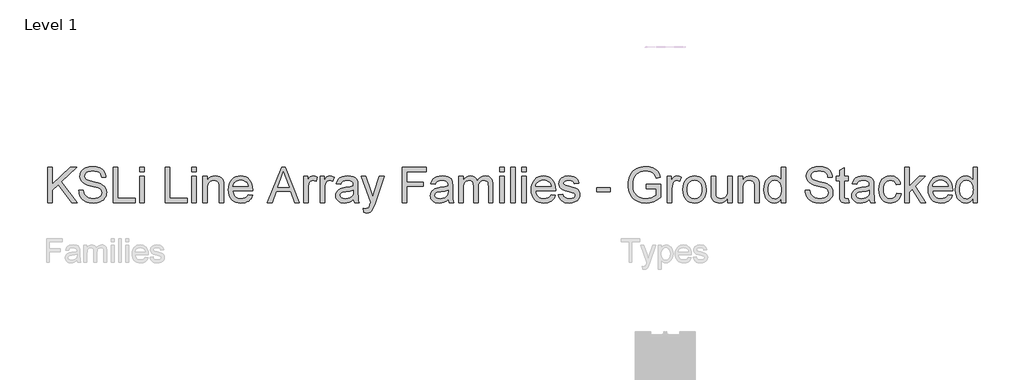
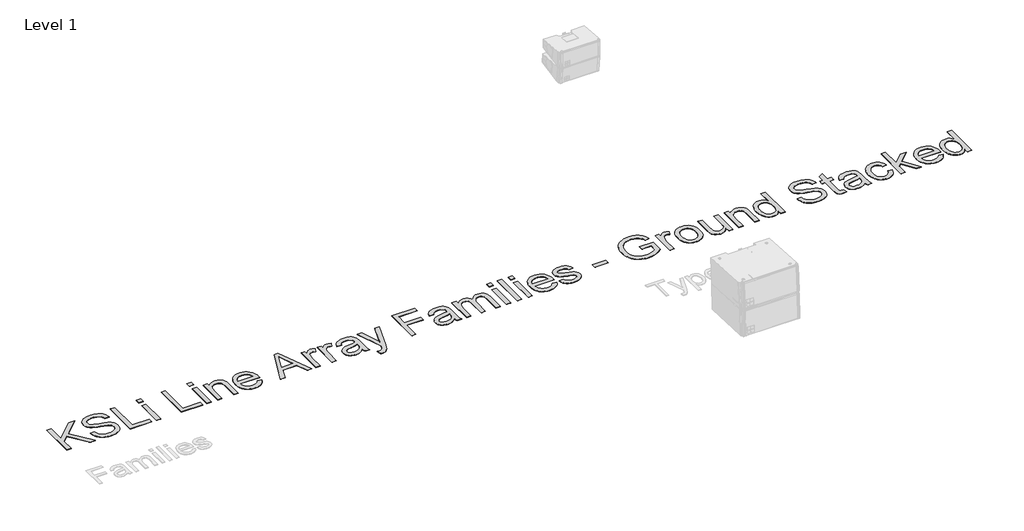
# One storey, part 41 of 52: 1 proxy.
"""IFC4 building model written with IfcOpenShell, lengths in millimetres."""

from ifc_helpers import new_model, si_unit, origin, origin_with_axes, place, context, project, spatial, polyline, outline, extrude, element, save

model = new_model("IFC4")

# Units and contexts
model_context = context("Model", 3, world=origin())
ifc_project = project(units=[si_unit("LENGTHUNIT", "METRE", prefix="MILLI")], contexts=[model_context])

# Site, building, storey
site = spatial("IfcSite", under=ifc_project)
building = spatial("IfcBuilding", under=site)
storey = spatial("IfcBuildingStorey", under=building, Name="Level 1", Elevation=0.0)

# Proxy
placement = place(None, origin())
element("IfcBuildingElementProxy", 1, Name="600mm Arial", ObjectType="600mm Arial", at=placement, inside=storey, context=model_context, shape_type="SweptSolid", body=[
    extrude(outline(polyline([(5965.0460087, -31067.5695164), (5965.0460087, -30476.8002857), (6038.8921626, -30476.8002857), (6038.8921626, -30765.982978), (6341.776778, -30476.8002857), (6445.0460087, -30476.8002857), (6190.7671626, -30719.684901), (6454.276778, -31067.5695164), (6363.9883164, -31067.5695164), (6138.4113933, -30769.5887472), (6038.8921626, -30864.4925934), (6038.8921626, -31067.5695164), (5965.0460087, -31067.5695164)])), origin_with_axes(), (0.0, 0.0, 1.0), 5.0),
    extrude(outline(polyline([(6481.9690857, -30864.4925934), (6555.8152395, -30864.4925934), (6564.2887972, -30905.4721607), (6579.6133164, -30938.4108626), (6603.5195664, -30964.5526895), (6637.7383164, -30985.1416318), (6679.5652395, -30998.5010068), (6726.2960087, -31002.9541318), (6767.4378357, -30999.5827376), (6803.4594703, -30989.4685549), (6832.6481722, -30973.4589395), (6853.291201, -30952.4012472), (6865.5688453, -30928.2245645), (6869.6613933, -30902.857978), (6866.5964895, -30878.1404299), (6857.401778, -30856.7762472), (6838.7238933, -30838.5490837), (6807.2094703, -30823.2425934), (6699.6854318, -30795.045478), (6629.1024991, -30776.3856222), (6583.9402395, -30758.6272087), (6547.1794222, -30733.7834587), (6521.1277395, -30703.6752857), (6505.604903, -30668.951728), (6500.4306241, -30630.2618241), (6502.0306842, -30608.271139), (6506.8308645, -30587.0106222), (6514.831165, -30566.4802736), (6526.0315857, -30546.6800934), (6540.3059246, -30528.4168722), (6557.5279799, -30512.497401), (6577.6977515, -30498.9216799), (6600.8152395, -30487.6897087), (6652.7743741, -30472.5995645), (6710.2863933, -30467.5695164), (6772.5940857, -30472.8339395), (6827.1133164, -30488.6272087), (6850.9654799, -30500.3910309), (6871.8969703, -30514.6248049), (6889.9077876, -30531.3285309), (6904.9979318, -30550.5022087), (6917.0502155, -30571.5869443), (6925.947451, -30594.0238434), (6931.6896385, -30617.8129059), (6934.276778, -30642.9541318), (6860.4306241, -30642.9541318), (6855.4907203, -30619.3904299), (6846.8729318, -30598.8916318), (6834.5772587, -30581.4577376), (6818.603701, -30567.0887472), (6798.6547828, -30555.856776), (6774.433028, -30547.8339395), (6745.9384366, -30543.0202376), (6713.1710087, -30541.4156703), (6679.3579078, -30543.0022087), (6650.4666818, -30547.7618241), (6626.4973308, -30555.6945164), (6607.4498549, -30566.8002857), (6592.9366337, -30580.1506462), (6582.5700472, -30594.8171126), (6576.3500953, -30610.7996847), (6574.276778, -30628.0983626), (6580.1541818, -30656.4757664), (6597.7863933, -30679.3002857), (6613.9762972, -30689.450526), (6639.4690857, -30699.7089395), (6718.3633164, -30720.5502857), (6799.7815857, -30740.3459587), (6849.0363933, -30757.6175934), (6891.1337491, -30784.4084587), (6907.40929, -30800.1566559), (6920.5027395, -30817.4733626), (6930.5673429, -30836.2684347), (6937.7563453, -30856.451728), (6943.5075472, -30900.982978), (6941.8534006, -30924.0824371), (6936.8909607, -30946.5058145), (6928.6202275, -30968.2531102), (6917.041201, -30989.3243241), (6902.3567058, -31008.903651), (6884.7695664, -31026.1752857), (6864.2797828, -31041.139228), (6840.8873549, -31053.795478), (6815.2728717, -31063.8600813), (6788.1169222, -31071.0490837), (6729.1806241, -31076.8002857), (6691.4056842, -31075.2498049), (6656.8308645, -31070.5983626), (6625.456165, -31062.8459587), (6597.2815857, -31051.9925934), (6572.1358525, -31038.0202376), (6549.8476914, -31020.9108626), (6530.4171025, -31000.6644684), (6513.8440857, -30977.2810549), (6500.4937251, -30951.5178337), (6490.7311049, -30924.1320164), (6484.5562251, -30895.123603), (6481.9690857, -30864.4925934)])), origin_with_axes(), (0.0, 0.0, 1.0), 5.0),
    extrude(outline(polyline([(7054.276778, -31067.5695164), (7054.276778, -30476.8002857), (7128.1229318, -30476.8002857), (7128.1229318, -30993.7233626), (7423.5075472, -30993.7233626), (7423.5075472, -31067.5695164), (7054.276778, -31067.5695164)])), origin_with_axes(), (0.0, 0.0, 1.0), 5.0),
    extrude(outline(polyline([(7497.353701, -31067.5695164), (7497.353701, -30633.7233626), (7571.1998549, -30633.7233626), (7571.1998549, -31067.5695164), (7497.353701, -31067.5695164)])), origin_with_axes(), (0.0, 0.0, 1.0), 5.0),
    extrude(outline(polyline([(7497.353701, -30550.6464395), (7497.353701, -30476.8002857), (7571.1998549, -30476.8002857), (7571.1998549, -30550.6464395), (7497.353701, -30550.6464395)])), origin_with_axes(), (0.0, 0.0, 1.0), 5.0),
    extrude(outline(polyline([(7921.9690857, -31067.5695164), (7921.9690857, -30476.8002857), (7995.8152395, -30476.8002857), (7995.8152395, -30993.7233626), (8291.1998549, -30993.7233626), (8291.1998549, -31067.5695164), (7921.9690857, -31067.5695164)])), origin_with_axes(), (0.0, 0.0, 1.0), 5.0),
    extrude(outline(polyline([(8365.0460087, -31067.5695164), (8365.0460087, -30633.7233626), (8438.8921626, -30633.7233626), (8438.8921626, -31067.5695164), (8365.0460087, -31067.5695164)])), origin_with_axes(), (0.0, 0.0, 1.0), 5.0),
    extrude(outline(polyline([(8365.0460087, -30550.6464395), (8365.0460087, -30476.8002857), (8438.8921626, -30476.8002857), (8438.8921626, -30550.6464395), (8365.0460087, -30550.6464395)])), origin_with_axes(), (0.0, 0.0, 1.0), 5.0),
    extrude(outline(polyline([(8549.6613933, -31067.5695164), (8549.6613933, -30633.7233626), (8623.5075472, -30633.7233626), (8623.5075472, -30694.3002857), (8649.1625953, -30663.7594203), (8679.9738933, -30641.9445164), (8715.9414414, -30628.8555741), (8757.0652395, -30624.4925934), (8793.4654799, -30628.0082184), (8826.8008164, -30638.5550934), (8854.6012972, -30654.8171126), (8874.3969703, -30675.4781703), (8887.8284607, -30700.4841799), (8896.5363933, -30729.7810549), (8900.4306241, -30801.1752857), (8900.4306241, -31067.5695164), (8826.5844703, -31067.5695164), (8826.5844703, -30811.1272087), (8824.4570664, -30772.9421126), (8818.0748549, -30745.7906703), (8806.3020183, -30726.3375453), (8788.0027395, -30711.247401), (8764.5472107, -30701.5659107), (8737.3056241, -30698.3387472), (8714.8822467, -30700.1506462), (8694.0544222, -30705.5863434), (8674.8221506, -30714.6458385), (8657.1854318, -30727.3291318), (8642.4513573, -30745.0785309), (8631.9270183, -30769.3363434), (8625.612415, -30800.1025693), (8623.5075472, -30837.3772087), (8623.5075472, -31067.5695164), (8549.6613933, -31067.5695164)])), origin_with_axes(), (0.0, 0.0, 1.0), 5.0),
    extrude(outline(polyline([(9305.7190857, -30938.3387472), (9378.1229318, -30947.5695164), (9367.0216698, -30976.5689155), (9352.0351914, -31002.1248049), (9333.1634967, -31024.2371847), (9310.4065857, -31042.9060549), (9283.9988333, -31057.7347809), (9254.1746145, -31068.326728), (9220.9339294, -31074.6818962), (9184.276778, -31076.8002857), (9138.4564655, -31073.1449371), (9097.6301433, -31062.1788914), (9061.7978116, -31043.9021486), (9030.9594703, -31018.3147087), (9006.1607924, -30986.1287111), (8988.447451, -30948.0562953), (8977.8194462, -30904.0974611), (8974.276778, -30854.2522087), (8977.8555039, -30802.716752), (8988.5916818, -30757.2930741), (9006.4853116, -30717.9811751), (9031.5363933, -30684.7810549), (9062.2936049, -30658.404853), (9097.3056241, -30639.5647087), (9136.572451, -30628.2606222), (9180.0940857, -30624.4925934), (9222.2139775, -30628.2516078), (9260.3044222, -30639.528651), (9294.3654198, -30658.3237232), (9324.3969703, -30684.6368241), (9348.9116938, -30717.7648289), (9366.4222107, -30757.0046126), (9376.9285208, -30802.3561751), (9380.4306241, -30853.8195164), (9379.9979318, -30873.7233626), (9048.1229318, -30873.7233626), (9052.4002756, -30903.1915116), (9060.9053837, -30928.9998049), (9073.6382563, -30951.1482424), (9090.5988933, -30969.6368241), (9110.8497948, -30984.2131462), (9133.4534607, -30994.6248049), (9158.4098909, -31000.8718001), (9185.7190857, -31002.9541318), (9225.0219703, -30999.0959587), (9258.1229318, -30987.5214395), (9285.0219703, -30967.5094203), (9305.7190857, -30938.3387472)]), holes=[polyline([(9048.1229318, -30799.8772087), (9306.5844703, -30799.8772087), (9296.5964895, -30760.8627857), (9288.0057443, -30745.5202376), (9277.0171626, -30732.9541318), (9256.8789414, -30717.809901), (9233.964278, -30706.9925934), (9208.2731722, -30700.5022087), (9179.8056241, -30698.3387472), (9153.8395784, -30700.0650092), (9130.0279799, -30705.2437953), (9108.3708284, -30713.8751054), (9088.8681241, -30725.9589395), (9072.502439, -30740.9364034), (9060.2563453, -30758.248603), (9052.1298429, -30777.8955381), (9048.1229318, -30799.8772087)])]), origin_with_axes(), (0.0, 0.0, 1.0), 5.0),
    extrude(outline(polyline([(9625.478701, -31067.5695164), (9861.2960087, -30476.8002857), (9924.1806241, -30476.8002857), (10159.9979318, -31067.5695164), (10081.9690857, -31067.5695164), (10014.3248549, -30882.9541318), (9771.0075472, -30882.9541318), (9703.5075472, -31067.5695164), (9625.478701, -31067.5695164)]), holes=[polyline([(9798.1229318, -30809.107978), (9987.353701, -30809.107978), (9934.1325472, -30663.8675934), (9892.7383164, -30550.6464395), (9855.9594703, -30651.1752857), (9798.1229318, -30809.107978)])]), origin_with_axes(), (0.0, 0.0, 1.0), 5.0),
    extrude(outline(polyline([(10229.6613933, -31067.5695164), (10229.6613933, -30633.7233626), (10294.276778, -30633.7233626), (10294.276778, -30697.9060549), (10318.1469703, -30660.6945164), (10340.1421626, -30638.7714395), (10362.2094703, -30628.0623049), (10386.2960087, -30624.4925934), (10423.0748549, -30630.1897087), (10460.4306241, -30647.2810549), (10435.7671626, -30713.482978), (10409.8056241, -30702.1248049), (10383.8440857, -30698.3387472), (10361.7948068, -30701.9805741), (10342.089278, -30712.9060549), (10326.1698068, -30730.2858626), (10315.478701, -30753.2906703), (10306.5003357, -30794.5406703), (10303.5075472, -30839.5406703), (10303.5075472, -31067.5695164), (10229.6613933, -31067.5695164)])), origin_with_axes(), (0.0, 0.0, 1.0), 5.0),
    extrude(outline(polyline([(10506.5844703, -31067.5695164), (10506.5844703, -30633.7233626), (10571.1998549, -30633.7233626), (10571.1998549, -30697.9060549), (10595.0700472, -30660.6945164), (10617.0652395, -30638.7714395), (10639.1325472, -30628.0623049), (10663.2190857, -30624.4925934), (10699.9979318, -30630.1897087), (10737.353701, -30647.2810549), (10712.6902395, -30713.482978), (10686.728701, -30702.1248049), (10660.7671626, -30698.3387472), (10638.7178837, -30701.9805741), (10619.0123549, -30712.9060549), (10603.0928837, -30730.2858626), (10592.401778, -30753.2906703), (10583.4234126, -30794.5406703), (10580.4306241, -30839.5406703), (10580.4306241, -31067.5695164), (10506.5844703, -31067.5695164)])), origin_with_axes(), (0.0, 0.0, 1.0), 5.0),
    extrude(outline(polyline([(11060.4306241, -31012.184901), (11025.1481722, -31042.4373049), (10988.8200472, -31062.232978), (10950.6169222, -31073.1584587), (10909.7094703, -31076.8002857), (10876.8293621, -31074.6097809), (10847.9967299, -31068.0382664), (10823.2115736, -31057.0857424), (10802.4738933, -31041.7522087), (10786.0991938, -31023.0112232), (10774.4029799, -31001.8363434), (10767.3852515, -30978.2275693), (10765.0460087, -30952.184901), (10768.5796626, -30921.5719203), (10779.1806241, -30893.7714395), (10795.5327876, -30869.9733626), (10816.3200472, -30851.3675934), (10840.7491337, -30837.3050934), (10868.026778, -30827.1368241), (10931.9210087, -30816.0310549), (11007.4258164, -30804.3483626), (11059.9979318, -30790.6464395), (11060.4306241, -30774.2041318), (11055.3464895, -30741.247401), (11048.9913212, -30729.0418722), (11040.0940857, -30719.684901), (11024.7154799, -30710.3459587), (11005.9835087, -30703.6752857), (10958.4594703, -30698.3387472), (10914.4690857, -30701.8904299), (10883.7479318, -30712.545478), (10862.7984126, -30732.2510068), (10848.1229318, -30762.9541318), (10774.276778, -30753.7233626), (10787.0952876, -30713.3387472), (10806.2238933, -30681.607978), (10833.447451, -30657.341151), (10870.5508164, -30639.3483626), (10915.9294222, -30628.2065357), (10967.978701, -30624.4925934), (11017.900576, -30627.7738434), (11057.4738933, -30637.6175934), (11087.3116337, -30652.419276), (11108.026778, -30670.5743241), (11121.7647587, -30693.0202376), (11130.6710087, -30720.6945164), (11134.276778, -30785.309901), (11134.276778, -30877.184901), (11138.026778, -31005.4781703), (11143.5796626, -31037.1909107), (11152.7383164, -31067.5695164), (11078.8921626, -31067.5695164), (11067.0652395, -31041.8964395), (11060.4306241, -31012.184901)]), holes=[polyline([(11060.4306241, -30864.4925934), (11010.8152395, -30876.7882664), (10941.2960087, -30887.1368241), (10877.7623549, -30899.107978), (10861.229903, -30907.2930741), (10848.9883164, -30918.5791318), (10841.416201, -30932.1007664), (10838.8921626, -30946.9925934), (10844.3909607, -30968.951728), (10860.8873549, -30986.9445164), (10888.0207683, -30998.951728), (10925.4306241, -31002.9541318), (10965.0940857, -30998.5370645), (11000.1421626, -30985.2858626), (11028.5556241, -30965.7606222), (11048.3152395, -30942.5214395), (11057.0772587, -30918.5791318), (11059.9979318, -30885.4060549), (11060.4306241, -30864.4925934)])]), origin_with_axes(), (0.0, 0.0, 1.0), 5.0),
    extrude(outline(polyline([(11235.8152395, -31233.7233626), (11226.5844703, -31162.6175934), (11264.0844703, -31169.107978), (11283.808028, -31167.0707184), (11299.1325472, -31160.9589395), (11311.0676433, -31151.2053337), (11320.6229318, -31138.2425934), (11340.8152395, -31083.8675934), (11346.5844703, -31065.982978), (11189.6613933, -30633.7233626), (11267.5460087, -30633.7233626), (11350.7671626, -30874.5887472), (11379.7575472, -30970.934901), (11408.7479318, -30885.8387472), (11494.276778, -30633.7233626), (11571.5844703, -30633.7233626), (11420.5748549, -31077.9541318), (11381.3440857, -31174.3002857), (11361.259951, -31205.0574972), (11338.5075472, -31226.3675934), (11312.0772587, -31238.8074972), (11280.9594703, -31242.9541318), (11259.5772587, -31240.6464395), (11235.8152395, -31233.7233626)])), origin_with_axes(), (0.0, 0.0, 1.0), 5.0),
    extrude(outline(polyline([(11872.7383164, -31067.5695164), (11872.7383164, -30476.8002857), (12269.6613933, -30476.8002857), (12269.6613933, -30550.6464395), (11946.5844703, -30550.6464395), (11946.5844703, -30726.0310549), (12223.5075472, -30726.0310549), (12223.5075472, -30799.8772087), (11946.5844703, -30799.8772087), (11946.5844703, -31067.5695164), (11872.7383164, -31067.5695164)])), origin_with_axes(), (0.0, 0.0, 1.0), 5.0),
    extrude(outline(polyline([(12638.8921626, -31012.184901), (12603.6097107, -31042.4373049), (12567.2815857, -31062.232978), (12529.0784607, -31073.1584587), (12488.1710087, -31076.8002857), (12455.2909006, -31074.6097809), (12426.4582683, -31068.0382664), (12401.6731121, -31057.0857424), (12380.9354318, -31041.7522087), (12364.5607323, -31023.0112232), (12352.8645183, -31001.8363434), (12345.84679, -30978.2275693), (12343.5075472, -30952.184901), (12347.041201, -30921.5719203), (12357.6421626, -30893.7714395), (12373.994326, -30869.9733626), (12394.7815857, -30851.3675934), (12419.2106722, -30837.3050934), (12446.4883164, -30827.1368241), (12510.3825472, -30816.0310549), (12585.8873549, -30804.3483626), (12638.4594703, -30790.6464395), (12638.8921626, -30774.2041318), (12633.808028, -30741.247401), (12627.4528597, -30729.0418722), (12618.5556241, -30719.684901), (12603.1770183, -30710.3459587), (12584.4450472, -30703.6752857), (12536.9210087, -30698.3387472), (12492.9306241, -30701.8904299), (12462.2094703, -30712.545478), (12441.259951, -30732.2510068), (12426.5844703, -30762.9541318), (12352.7383164, -30753.7233626), (12365.556826, -30713.3387472), (12384.6854318, -30681.607978), (12411.9089895, -30657.341151), (12449.0123549, -30639.3483626), (12494.3909607, -30628.2065357), (12546.4402395, -30624.4925934), (12596.3621145, -30627.7738434), (12635.9354318, -30637.6175934), (12665.7731722, -30652.419276), (12686.4883164, -30670.5743241), (12700.2262972, -30693.0202376), (12709.1325472, -30720.6945164), (12712.7383164, -30785.309901), (12712.7383164, -30877.184901), (12716.4883164, -31005.4781703), (12722.041201, -31037.1909107), (12731.1998549, -31067.5695164), (12657.353701, -31067.5695164), (12645.526778, -31041.8964395), (12638.8921626, -31012.184901)]), holes=[polyline([(12638.8921626, -30864.4925934), (12589.276778, -30876.7882664), (12519.7575472, -30887.1368241), (12456.2238933, -30899.107978), (12439.6914414, -30907.2930741), (12427.4498549, -30918.5791318), (12419.8777395, -30932.1007664), (12417.353701, -30946.9925934), (12422.8524991, -30968.951728), (12439.3488933, -30986.9445164), (12466.4823068, -30998.951728), (12503.8921626, -31002.9541318), (12543.5556241, -30998.5370645), (12578.603701, -30985.2858626), (12607.0171626, -30965.7606222), (12626.776778, -30942.5214395), (12635.5387972, -30918.5791318), (12638.4594703, -30885.4060549), (12638.8921626, -30864.4925934)])]), origin_with_axes(), (0.0, 0.0, 1.0), 5.0),
    extrude(outline(polyline([(12814.276778, -31067.5695164), (12814.276778, -30633.7233626), (12888.1229318, -30633.7233626), (12888.1229318, -30705.1175934), (12910.3344703, -30672.3231222), (12938.8921626, -30646.6320164), (12972.822451, -30630.0274491), (13011.151778, -30624.4925934), (13052.2214895, -30630.1356222), (13069.7004558, -30637.1894083), (13085.1421626, -30647.0647087), (13109.7335087, -30674.1620645), (13125.8152395, -30710.309901), (13152.7323068, -30672.7648289), (13183.4354318, -30645.9469203), (13217.9246145, -30629.8561751), (13256.1998549, -30624.4925934), (13285.7626554, -30626.7236631), (13311.7106722, -30633.4168722), (13334.0439054, -30644.5722208), (13352.7623549, -30660.1897087), (13367.5595304, -30680.4496246), (13378.1289414, -30705.5322568), (13384.4705881, -30735.4376054), (13386.5844703, -30770.1656703), (13386.5844703, -31067.5695164), (13312.7383164, -31067.5695164), (13312.7383164, -30801.8964395), (13311.025576, -30765.0635068), (13305.8873549, -30740.2377857), (13296.259951, -30723.2365837), (13281.0796626, -30709.8772087), (13261.5544222, -30701.2233626), (13238.8921626, -30698.3387472), (13217.9651794, -30700.1867039), (13198.886153, -30705.7305741), (13181.6550833, -30714.9703578), (13166.2719703, -30727.9060549), (13153.6202275, -30744.9162712), (13144.5832683, -30766.3796126), (13139.1610929, -30792.2960789), (13137.353701, -30822.6656703), (13137.353701, -31067.5695164), (13063.5075472, -31067.5695164), (13063.5075472, -30793.6752857), (13059.2347107, -30751.920478), (13046.416201, -30722.1368241), (13036.5048429, -30711.7251655), (13023.8621145, -30704.2882664), (13008.4880159, -30699.826127), (12990.3825472, -30698.3387472), (12961.933028, -30702.3050934), (12935.7190857, -30714.2041318), (12914.0844703, -30733.747401), (12899.3729318, -30760.6464395), (12890.9354318, -30797.966151), (12888.1229318, -30848.7714395), (12888.1229318, -31067.5695164), (12814.276778, -31067.5695164)])), origin_with_axes(), (0.0, 0.0, 1.0), 5.0),
    extrude(outline(polyline([(13497.353701, -31067.5695164), (13497.353701, -30633.7233626), (13571.1998549, -30633.7233626), (13571.1998549, -31067.5695164), (13497.353701, -31067.5695164)])), origin_with_axes(), (0.0, 0.0, 1.0), 5.0),
    extrude(outline(polyline([(13497.353701, -30550.6464395), (13497.353701, -30476.8002857), (13571.1998549, -30476.8002857), (13571.1998549, -30550.6464395), (13497.353701, -30550.6464395)])), origin_with_axes(), (0.0, 0.0, 1.0), 5.0),
    extrude(outline(polyline([(13681.9690857, -31067.5695164), (13681.9690857, -30476.8002857), (13755.8152395, -30476.8002857), (13755.8152395, -31067.5695164), (13681.9690857, -31067.5695164)])), origin_with_axes(), (0.0, 0.0, 1.0), 5.0),
    extrude(outline(polyline([(13866.5844703, -31067.5695164), (13866.5844703, -30633.7233626), (13940.4306241, -30633.7233626), (13940.4306241, -31067.5695164), (13866.5844703, -31067.5695164)])), origin_with_axes(), (0.0, 0.0, 1.0), 5.0),
    extrude(outline(polyline([(13866.5844703, -30550.6464395), (13866.5844703, -30476.8002857), (13940.4306241, -30476.8002857), (13940.4306241, -30550.6464395), (13866.5844703, -30550.6464395)])), origin_with_axes(), (0.0, 0.0, 1.0), 5.0),
    extrude(outline(polyline([(14354.9498549, -30938.3387472), (14427.353701, -30947.5695164), (14416.252439, -30976.5689155), (14401.2659607, -31002.1248049), (14382.3942659, -31024.2371847), (14359.6373549, -31042.9060549), (14333.2296025, -31057.7347809), (14303.4053837, -31068.326728), (14270.1646986, -31074.6818962), (14233.5075472, -31076.8002857), (14187.6872347, -31073.1449371), (14146.8609126, -31062.1788914), (14111.0285808, -31043.9021486), (14080.1902395, -31018.3147087), (14055.3915616, -30986.1287111), (14037.6782203, -30948.0562953), (14027.0502155, -30904.0974611), (14023.5075472, -30854.2522087), (14027.0862732, -30802.716752), (14037.822451, -30757.2930741), (14055.7160808, -30717.9811751), (14080.7671626, -30684.7810549), (14111.5243741, -30658.404853), (14146.5363933, -30639.5647087), (14185.8032203, -30628.2606222), (14229.3248549, -30624.4925934), (14271.4447467, -30628.2516078), (14309.5351914, -30639.528651), (14343.596189, -30658.3237232), (14373.6277395, -30684.6368241), (14398.1424631, -30717.7648289), (14415.6529799, -30757.0046126), (14426.15929, -30802.3561751), (14429.6613933, -30853.8195164), (14429.228701, -30873.7233626), (14097.353701, -30873.7233626), (14101.6310448, -30903.1915116), (14110.136153, -30928.9998049), (14122.8690256, -30951.1482424), (14139.8296626, -30969.6368241), (14160.080564, -30984.2131462), (14182.6842299, -30994.6248049), (14207.6406602, -31000.8718001), (14234.9498549, -31002.9541318), (14274.2527395, -30999.0959587), (14307.353701, -30987.5214395), (14334.2527395, -30967.5094203), (14354.9498549, -30938.3387472)]), holes=[polyline([(14097.353701, -30799.8772087), (14355.8152395, -30799.8772087), (14345.8272587, -30760.8627857), (14337.2365135, -30745.5202376), (14326.2479318, -30732.9541318), (14306.1097107, -30717.809901), (14283.1950472, -30706.9925934), (14257.5039414, -30700.5022087), (14229.0363933, -30698.3387472), (14203.0703477, -30700.0650092), (14179.2587491, -30705.2437953), (14157.6015977, -30713.8751054), (14138.0988933, -30725.9589395), (14121.7332083, -30740.9364034), (14109.4871145, -30758.248603), (14101.3606121, -30777.8955381), (14097.353701, -30799.8772087)])]), origin_with_axes(), (0.0, 0.0, 1.0), 5.0),
    extrude(outline(polyline([(14475.8152395, -30938.3387472), (14549.6613933, -30929.107978), (14554.1235328, -30945.9469203), (14561.308028, -30960.6945164), (14571.2148789, -30973.3507664), (14583.8440857, -30983.9156703), (14599.2317058, -30992.2449972), (14617.4137972, -30998.1945164), (14662.1613933, -31002.9541318), (14706.3681241, -30998.591151), (14723.5496145, -30993.1374251), (14737.4498549, -30985.5022087), (14755.839278, -30966.5358626), (14761.9690857, -30944.5406703), (14760.4276193, -30934.5707184), (14755.8032203, -30925.7185549), (14737.3056241, -30911.3675934), (14709.6493741, -30901.9925934), (14661.2960087, -30890.309901), (14593.9041818, -30870.8207184), (14550.0940857, -30854.1800934), (14521.9510568, -30836.0250453), (14501.5604318, -30811.9925934), (14489.1746145, -30783.6151895), (14485.0460087, -30752.4252857), (14488.3633164, -30723.8135068), (14498.3152395, -30697.4012472), (14514.0003357, -30674.2341799), (14534.5171626, -30655.357978), (14554.9077876, -30643.4769684), (14581.464278, -30633.5070164), (14612.167403, -30626.7461991), (14644.9979318, -30624.4925934), (14693.0628357, -30628.1163914), (14734.853701, -30638.9877857), (14768.4594703, -30656.0430741), (14791.9690857, -30678.2185549), (14807.5460087, -30707.154853), (14817.353701, -30744.4925934), (14743.5075472, -30753.7233626), (14734.1866337, -30730.4841799), (14715.7431241, -30712.9781703), (14687.9967299, -30701.998603), (14650.7671626, -30698.3387472), (14608.3633164, -30701.8363434), (14580.0940857, -30712.3291318), (14564.1926433, -30727.4733626), (14558.8921626, -30744.9252857), (14561.0916818, -30756.2834587), (14567.6902395, -30766.4156703), (14578.9762972, -30775.466151), (14595.2383164, -30782.7137472), (14658.8440857, -30798.434901), (14767.2335087, -30833.1945164), (14795.8633164, -30849.8171126), (14817.5700472, -30872.5695164), (14831.2539414, -30901.5238434), (14835.8152395, -30936.7522087), (14830.4606722, -30973.170478), (14814.3969703, -31007.4252857), (14788.2371145, -31036.8303337), (14752.5940857, -31058.6993241), (14709.541201, -31072.2750453), (14661.151778, -31076.8002857), (14621.4071866, -31074.6187953), (14586.6926433, -31068.0743241), (14557.0081482, -31057.1668722), (14532.353701, -31041.8964395), (14512.2154799, -31022.3351414), (14496.0796626, -30998.5550934), (14483.9462491, -30970.5562953), (14475.8152395, -30938.3387472)])), origin_with_axes(), (0.0, 0.0, 1.0), 5.0),
    extrude(outline(polyline([(15112.7383164, -30892.184901), (15112.7383164, -30818.3387472), (15343.5075472, -30818.3387472), (15343.5075472, -30892.184901), (15112.7383164, -30892.184901)])), origin_with_axes(), (0.0, 0.0, 1.0), 5.0),
    extrude(outline(polyline([(15943.5075472, -30836.8002857), (15943.5075472, -30762.9541318), (16183.5075472, -30762.9541318), (16183.5075472, -30983.7714395), (16125.1842299, -31024.3363434), (16065.0219703, -31053.434901), (16003.1649991, -31070.9589395), (15939.7575472, -31076.8002857), (15897.3401794, -31074.4790717), (15856.9149991, -31067.5154299), (15818.4820063, -31055.9093602), (15782.041201, -31039.6608626), (15748.7689655, -31019.0133265), (15719.8416818, -30994.2101414), (15695.2593501, -30965.2513073), (15675.0219703, -30932.1368241), (15659.2151794, -30895.9258866), (15647.9246145, -30857.6776895), (15641.1502756, -30817.3922328), (15638.8921626, -30775.0695164), (15641.1412611, -30732.7422929), (15647.8885568, -30691.8663914), (15659.1340496, -30652.4418121), (15674.8777395, -30614.4685549), (15694.8401794, -30579.6142881), (15718.7419222, -30549.5466799), (15746.5829679, -30524.2657304), (15778.3633164, -30503.7714395), (15813.3933645, -30487.9330982), (15850.9835087, -30476.6199972), (15891.1337491, -30469.8321366), (15933.8440857, -30467.5695164), (15994.6734126, -30472.8159107), (16049.3729318, -30488.5550934), (16095.4366337, -30513.6512472), (16114.2902996, -30529.2822568), (16130.3585087, -30546.9685549), (16156.1938453, -30590.1115837), (16174.9979318, -30644.684901), (16106.9210087, -30663.8675934), (16091.7226914, -30624.9433145), (16073.2431241, -30595.5743241), (16048.7960087, -30573.434901), (16015.6950472, -30556.1993241), (15976.229903, -30545.1115837), (15932.6902395, -30541.4156703), (15881.7226914, -30545.4000453), (15838.1469703, -30557.3531703), (15802.1253357, -30575.778651), (15773.8200472, -30599.1800934), (15752.0952876, -30626.3495645), (15735.8152395, -30656.0791318), (15718.5075472, -30711.8243241), (15712.7383164, -30772.0406703), (15714.4735929, -30808.9141679), (15719.6794222, -30842.6596607), (15728.3558044, -30873.2771486), (15740.5027395, -30900.7666318), (15755.9624751, -30925.0244443), (15774.5772587, -30945.9469203), (15796.3470905, -30963.5340597), (15821.2719703, -30977.7858626), (15848.1845304, -30988.7969804), (15875.917403, -30996.6620645), (15904.4705881, -31001.381115), (15933.8440857, -31002.9541318), (15984.9919222, -30998.2125453), (16034.8777395, -30983.9877857), (16078.2010568, -30964.3904299), (16109.6613933, -30943.5310549), (16109.6613933, -30836.8002857), (15943.5075472, -30836.8002857)])), origin_with_axes(), (0.0, 0.0, 1.0), 5.0),
    extrude(outline(polyline([(16294.276778, -31067.5695164), (16294.276778, -30633.7233626), (16358.8921626, -30633.7233626), (16358.8921626, -30697.9060549), (16382.7623549, -30660.6945164), (16404.7575472, -30638.7714395), (16426.8248549, -30628.0623049), (16450.9113933, -30624.4925934), (16487.6902395, -30630.1897087), (16525.0460087, -30647.2810549), (16500.3825472, -30713.482978), (16474.4210087, -30702.1248049), (16448.4594703, -30698.3387472), (16426.4101914, -30701.9805741), (16406.7046626, -30712.9060549), (16390.7851914, -30730.2858626), (16380.0940857, -30753.2906703), (16371.1157203, -30794.5406703), (16368.1229318, -30839.5406703), (16368.1229318, -31067.5695164), (16294.276778, -31067.5695164)])), origin_with_axes(), (0.0, 0.0, 1.0), 5.0),
    extrude(outline(polyline([(16552.7383164, -30850.6464395), (16556.7317058, -30794.4595405), (16568.7118741, -30746.0430741), (16588.6788212, -30705.3970405), (16616.6325472, -30672.5214395), (16644.775576, -30651.5088193), (16675.839278, -30636.4998049), (16709.823653, -30627.4943962), (16746.728701, -30624.4925934), (16787.4693861, -30628.1479419), (16824.306826, -30639.1139876), (16857.2410208, -30657.3907304), (16886.2719703, -30682.9781703), (16909.9663813, -30715.0109227), (16926.8909607, -30752.623603), (16937.0457083, -30795.8162111), (16940.4306241, -30844.5887472), (16938.9342299, -30884.1169924), (16934.4450472, -30919.1921126), (16926.963076, -30949.8141078), (16916.4883164, -30975.982978), (16903.1514775, -30998.5866438), (16887.0832683, -31018.513026), (16868.283689, -31035.7621246), (16846.7527395, -31050.3339395), (16823.3287611, -31061.9129659), (16798.8500953, -31070.1836991), (16773.3167419, -31075.146139), (16746.728701, -31076.8002857), (16705.393064, -31073.1584587), (16668.213076, -31062.232978), (16635.1887371, -31044.0238434), (16606.3200472, -31018.5310549), (16582.87804, -30986.1873049), (16566.1337491, -30947.4252857), (16556.0871746, -30902.2449972), (16552.7383164, -30850.6464395)]), holes=[polyline([(16626.5844703, -30850.5022087), (16628.7208885, -30886.3210188), (16635.1301433, -30917.3351414), (16645.8122347, -30943.5445765), (16660.7671626, -30964.9493241), (16678.9582683, -30981.5764275), (16699.3488933, -30993.4529299), (16721.9390376, -31000.5788313), (16746.728701, -31002.9541318), (16771.3921626, -31000.5653097), (16793.8921626, -30993.3988434), (16814.228701, -30981.4547328), (16832.401778, -30964.732978), (16847.3567058, -30943.1163914), (16858.0387972, -30916.4877857), (16864.448052, -30884.8471607), (16866.5844703, -30848.1945164), (16864.4345304, -30813.5115236), (16857.9847107, -30783.3086991), (16847.2350111, -30757.5860429), (16832.1854318, -30736.3435549), (16813.9447467, -30719.7164515), (16793.6217299, -30707.8399491), (16771.2163813, -30700.7140477), (16746.728701, -30698.3387472), (16721.9390376, -30700.7050333), (16699.3488933, -30707.8038914), (16678.9582683, -30719.6353217), (16660.7671626, -30736.1993241), (16645.8122347, -30757.5409708), (16635.1301433, -30783.7053337), (16628.7208885, -30814.6924131), (16626.5844703, -30850.5022087)])]), origin_with_axes(), (0.0, 0.0, 1.0), 5.0),
    extrude(outline(polyline([(17300.4306241, -31067.5695164), (17300.4306241, -30993.0022087), (17273.7118741, -31029.6638674), (17242.5940857, -31055.8507664), (17207.0772587, -31071.5629059), (17167.1613933, -31076.8002857), (17131.1938453, -31073.122401), (17097.714278, -31062.0887472), (17069.6253357, -31045.5022087), (17049.8296626, -31025.1656703), (17036.5063453, -31000.466151), (17027.8344703, -30970.7906703), (17023.5075472, -30902.1368241), (17023.5075472, -30633.7233626), (17097.353701, -30633.7233626), (17097.353701, -30867.3772087), (17098.4714895, -30914.107978), (17101.8248549, -30942.6656703), (17112.588076, -30967.779853), (17131.0315857, -30986.872401), (17155.9294222, -30998.9336991), (17186.0556241, -31002.9541318), (17217.9125953, -30998.8435549), (17247.714278, -30986.5118241), (17272.2875953, -30967.0947568), (17288.4594703, -30941.7281703), (17297.4378357, -30906.9865837), (17300.4306241, -30859.4445164), (17300.4306241, -30633.7233626), (17374.276778, -30633.7233626), (17374.276778, -31067.5695164), (17300.4306241, -31067.5695164)])), origin_with_axes(), (0.0, 0.0, 1.0), 5.0),
    extrude(outline(polyline([(17475.8152395, -31067.5695164), (17475.8152395, -30633.7233626), (17549.6613933, -30633.7233626), (17549.6613933, -30694.3002857), (17575.3164414, -30663.7594203), (17606.1277395, -30641.9445164), (17642.0952876, -30628.8555741), (17683.2190857, -30624.4925934), (17719.619326, -30628.0082184), (17752.9546626, -30638.5550934), (17780.7551433, -30654.8171126), (17800.5508164, -30675.4781703), (17813.9823068, -30700.4841799), (17822.6902395, -30729.7810549), (17826.5844703, -30801.1752857), (17826.5844703, -31067.5695164), (17752.7383164, -31067.5695164), (17752.7383164, -30811.1272087), (17750.6109126, -30772.9421126), (17744.228701, -30745.7906703), (17732.4558645, -30726.3375453), (17714.1565857, -30711.247401), (17690.7010568, -30701.5659107), (17663.4594703, -30698.3387472), (17641.0360929, -30700.1506462), (17620.2082683, -30705.5863434), (17600.9759967, -30714.6458385), (17583.339278, -30727.3291318), (17568.6052034, -30745.0785309), (17558.0808645, -30769.3363434), (17551.7662611, -30800.1025693), (17549.6613933, -30837.3772087), (17549.6613933, -31067.5695164), (17475.8152395, -31067.5695164)])), origin_with_axes(), (0.0, 0.0, 1.0), 5.0),
    extrude(outline(polyline([(18195.8152395, -31067.5695164), (18195.8152395, -30997.9060549), (18173.7208885, -31032.4222809), (18146.9570664, -31057.076728), (18115.5237732, -31071.8693962), (18079.4210087, -31076.8002857), (18055.0460087, -31075.0154299), (18031.6806241, -31069.6608626), (18009.3248549, -31060.7365837), (17987.978701, -31048.2425934), (17968.3092299, -31032.55299), (17950.9835087, -31014.0418722), (17936.0015376, -30992.70924), (17923.3633164, -30968.5550934), (17913.3302635, -30942.0391679), (17906.1637972, -30913.6211991), (17900.4306241, -30851.0791318), (17905.713076, -30789.3123049), (17921.5604318, -30733.5310549), (17933.4414414, -30708.6782905), (17947.9546626, -30686.9084587), (17965.1000953, -30668.2215597), (17984.8777395, -30652.6175934), (18006.5889775, -30640.3129059), (18029.5351914, -30631.5238434), (18053.7163813, -30626.2504059), (18079.1325472, -30624.4925934), (18115.2623549, -30629.5226414), (18147.2094703, -30644.6127857), (18174.2887972, -30667.7437953), (18195.8152395, -30696.8964395), (18195.8152395, -30476.8002857), (18269.6613933, -30476.8002857), (18269.6613933, -31067.5695164), (18195.8152395, -31067.5695164)]), holes=[polyline([(17974.276778, -30850.7906703), (17976.3591097, -30886.6004659), (17982.6061049, -30917.5875453), (17993.0177635, -30943.7519083), (18007.5940857, -30965.0935549), (18025.0009366, -30981.6575573), (18043.9041818, -30993.4889876), (18064.3038212, -31000.5878458), (18086.1998549, -31002.9541318), (18108.1995544, -31000.6960188), (18128.4774991, -30993.9216799), (18147.033689, -30982.631115), (18163.8681241, -30966.8243241), (18177.8449871, -30946.3751054), (18187.8284607, -30921.1572568), (18193.8185448, -30891.1707784), (18195.8152395, -30856.4156703), (18193.7824871, -30818.3117039), (18187.6842299, -30785.6344203), (18177.5204679, -30758.3838193), (18163.291201, -30736.559901), (18146.0871746, -30719.8381462), (18126.9991337, -30707.8940357), (18106.0270784, -30700.7275693), (18083.1710087, -30698.3387472), (18060.8422828, -30700.6329179), (18040.4426433, -30707.5154299), (18021.9720905, -30718.9862833), (18005.4306241, -30735.045478), (17991.8008164, -30756.0445765), (17982.0652395, -30782.3351414), (17976.2238933, -30813.9171727), (17974.276778, -30850.7906703)])]), origin_with_axes(), (0.0, 0.0, 1.0), 5.0),
    extrude(outline(polyline([(18592.7383164, -30864.4925934), (18666.5844703, -30864.4925934), (18675.058028, -30905.4721607), (18690.3825472, -30938.4108626), (18714.2887972, -30964.5526895), (18748.5075472, -30985.1416318), (18790.3344703, -30998.5010068), (18837.0652395, -31002.9541318), (18878.2070664, -30999.5827376), (18914.228701, -30989.4685549), (18943.417403, -30973.4589395), (18964.0604318, -30952.4012472), (18976.338076, -30928.2245645), (18980.4306241, -30902.857978), (18977.3657203, -30878.1404299), (18968.1710087, -30856.7762472), (18949.4931241, -30838.5490837), (18917.978701, -30823.2425934), (18810.4546626, -30795.045478), (18739.8717299, -30776.3856222), (18694.7094703, -30758.6272087), (18657.948653, -30733.7834587), (18631.8969703, -30703.6752857), (18616.3741337, -30668.951728), (18611.1998549, -30630.2618241), (18612.799915, -30608.271139), (18617.6000953, -30587.0106222), (18625.6003958, -30566.4802736), (18636.8008164, -30546.6800934), (18651.0751554, -30528.4168722), (18668.2972107, -30512.497401), (18688.4669823, -30498.9216799), (18711.5844703, -30487.6897087), (18763.5436049, -30472.5995645), (18821.0556241, -30467.5695164), (18883.3633164, -30472.8339395), (18937.8825472, -30488.6272087), (18961.7347107, -30500.3910309), (18982.666201, -30514.6248049), (19000.6770183, -30531.3285309), (19015.7671626, -30550.5022087), (19027.8194462, -30571.5869443), (19036.7166818, -30594.0238434), (19042.4588693, -30617.8129059), (19045.0460087, -30642.9541318), (18971.1998549, -30642.9541318), (18966.259951, -30619.3904299), (18957.6421626, -30598.8916318), (18945.3464895, -30581.4577376), (18929.3729318, -30567.0887472), (18909.4240135, -30555.856776), (18885.2022587, -30547.8339395), (18856.7076674, -30543.0202376), (18823.9402395, -30541.4156703), (18790.1271385, -30543.0022087), (18761.2359126, -30547.7618241), (18737.2665616, -30555.6945164), (18718.2190857, -30566.8002857), (18703.7058645, -30580.1506462), (18693.339278, -30594.8171126), (18687.119326, -30610.7996847), (18685.0460087, -30628.0983626), (18690.9234126, -30656.4757664), (18708.5556241, -30679.3002857), (18724.745528, -30689.450526), (18750.2383164, -30699.7089395), (18829.1325472, -30720.5502857), (18910.5508164, -30740.3459587), (18959.8056241, -30757.6175934), (19001.9029799, -30784.4084587), (19018.1785208, -30800.1566559), (19031.2719703, -30817.4733626), (19041.3365736, -30836.2684347), (19048.525576, -30856.451728), (19054.276778, -30900.982978), (19052.6226313, -30924.0824371), (19047.6601914, -30946.5058145), (19039.3894583, -30968.2531102), (19027.8104318, -30989.3243241), (19013.1259366, -31008.903651), (18995.5387972, -31026.1752857), (18975.0490135, -31041.139228), (18951.6565857, -31053.795478), (18926.0421025, -31063.8600813), (18898.886153, -31071.0490837), (18839.9498549, -31076.8002857), (18802.174915, -31075.2498049), (18767.6000953, -31070.5983626), (18736.2253958, -31062.8459587), (18708.0508164, -31051.9925934), (18682.9050833, -31038.0202376), (18660.6169222, -31020.9108626), (18641.1863333, -31000.6644684), (18624.6133164, -30977.2810549), (18611.2629558, -30951.5178337), (18601.5003357, -30924.1320164), (18595.3254558, -30895.123603), (18592.7383164, -30864.4925934)])), origin_with_axes(), (0.0, 0.0, 1.0), 5.0),
    extrude(outline(polyline([(19312.7383164, -31005.982978), (19321.9690857, -31069.732978), (19266.728701, -31076.8002857), (19231.2839895, -31073.7353818), (19204.853701, -31064.5406703), (19186.1758164, -31050.3699972), (19173.9883164, -31032.3772087), (19167.2815857, -31001.4757664), (19165.0460087, -30948.5791318), (19165.0460087, -30707.5695164), (19109.6613933, -30707.5695164), (19109.6613933, -30633.7233626), (19165.0460087, -30633.7233626), (19165.0460087, -30528.2906703), (19238.8921626, -30484.8772087), (19238.8921626, -30633.7233626), (19312.7383164, -30633.7233626), (19312.7383164, -30707.5695164), (19238.8921626, -30707.5695164), (19238.8921626, -30946.4156703), (19242.7863933, -30984.4925934), (19255.4065857, -30997.9781703), (19266.0616337, -31001.7101414), (19280.5748549, -31002.9541318), (19312.7383164, -31005.982978)])), origin_with_axes(), (0.0, 0.0, 1.0), 5.0),
    extrude(outline(polyline([(19663.5075472, -31012.184901), (19628.2250953, -31042.4373049), (19591.8969703, -31062.232978), (19553.6938453, -31073.1584587), (19512.7863933, -31076.8002857), (19479.9062852, -31074.6097809), (19451.073653, -31068.0382664), (19426.2884967, -31057.0857424), (19405.5508164, -31041.7522087), (19389.1761169, -31023.0112232), (19377.479903, -31001.8363434), (19370.4621746, -30978.2275693), (19368.1229318, -30952.184901), (19371.6565857, -30921.5719203), (19382.2575472, -30893.7714395), (19398.6097107, -30869.9733626), (19419.3969703, -30851.3675934), (19443.8260568, -30837.3050934), (19471.103701, -30827.1368241), (19534.9979318, -30816.0310549), (19610.5027395, -30804.3483626), (19663.0748549, -30790.6464395), (19663.5075472, -30774.2041318), (19658.4234126, -30741.247401), (19652.0682443, -30729.0418722), (19643.1710087, -30719.684901), (19627.792403, -30710.3459587), (19609.0604318, -30703.6752857), (19561.5363933, -30698.3387472), (19517.5460087, -30701.8904299), (19486.8248549, -30712.545478), (19465.8753357, -30732.2510068), (19451.1998549, -30762.9541318), (19377.353701, -30753.7233626), (19390.1722107, -30713.3387472), (19409.3008164, -30681.607978), (19436.5243741, -30657.341151), (19473.6277395, -30639.3483626), (19519.0063453, -30628.2065357), (19571.0556241, -30624.4925934), (19620.9774991, -30627.7738434), (19660.5508164, -30637.6175934), (19690.3885568, -30652.419276), (19711.103701, -30670.5743241), (19724.8416818, -30693.0202376), (19733.7479318, -30720.6945164), (19737.353701, -30785.309901), (19737.353701, -30877.184901), (19741.103701, -31005.4781703), (19746.6565857, -31037.1909107), (19755.8152395, -31067.5695164), (19681.9690857, -31067.5695164), (19670.1421626, -31041.8964395), (19663.5075472, -31012.184901)]), holes=[polyline([(19663.5075472, -30864.4925934), (19613.8921626, -30876.7882664), (19544.3729318, -30887.1368241), (19480.839278, -30899.107978), (19464.306826, -30907.2930741), (19452.0652395, -30918.5791318), (19444.4931241, -30932.1007664), (19441.9690857, -30946.9925934), (19447.4678837, -30968.951728), (19463.964278, -30986.9445164), (19491.0976914, -30998.951728), (19528.5075472, -31002.9541318), (19568.1710087, -30998.5370645), (19603.2190857, -30985.2858626), (19631.6325472, -30965.7606222), (19651.3921626, -30942.5214395), (19660.1541818, -30918.5791318), (19663.0748549, -30885.4060549), (19663.5075472, -30864.4925934)])]), origin_with_axes(), (0.0, 0.0, 1.0), 5.0),
    extrude(outline(polyline([(20115.8152395, -30910.6464395), (20189.6613933, -30919.8772087), (20181.6295424, -30954.7224611), (20169.072451, -30985.5562953), (20151.9901193, -31012.3787111), (20130.3825472, -31035.1897087), (20105.1601914, -31053.3943361), (20077.2335087, -31066.3976414), (20046.6024991, -31074.1996246), (20013.2671626, -31076.8002857), (19971.8503958, -31073.1719804), (19934.7154799, -31062.2870645), (19901.862415, -31044.1455381), (19873.291201, -31018.747401), (19850.1646986, -30986.5704179), (19833.6457683, -30948.092353), (19823.7344102, -30903.3132063), (19820.4306241, -30852.232978), (19826.073653, -30786.5178337), (19833.127439, -30756.9460188), (19843.0027395, -30729.5647087), (19855.7671626, -30704.9237833), (19871.4883164, -30683.5731222), (19890.166201, -30665.5127256), (19911.8008164, -30650.7425934), (19935.4140977, -30639.2582184), (19960.0279799, -30631.0550934), (19985.6424631, -30626.1332184), (20012.2575472, -30624.4925934), (20045.0204679, -30626.7461991), (20074.6553837, -30633.5070164), (20101.1622948, -30644.7750453), (20124.541201, -30660.5502857), (20144.3954679, -30680.4721607), (20160.3284607, -30704.1800934), (20172.3401794, -30731.6740837), (20180.4306241, -30762.9541318), (20106.5844703, -30772.184901), (20093.1890376, -30739.967353), (20072.3296626, -30716.872401), (20045.1601914, -30702.9721607), (20012.8344703, -30698.3387472), (19987.7428236, -30700.6193962), (19965.1121145, -30707.4613434), (19944.9423429, -30718.8645885), (19927.2335087, -30734.8291318), (19912.814939, -30755.7245645), (19902.5159607, -30781.920478), (19896.3365736, -30813.4168722), (19894.276778, -30850.2137472), (19896.2915015, -30887.5650092), (19902.3356722, -30919.4264876), (19912.40929, -30945.7981823), (19926.5123549, -30966.6800934), (19943.8696265, -30982.5499852), (19963.7058645, -30993.8856222), (19986.0210688, -31000.6870044), (20010.8152395, -31002.9541318), (20049.0544222, -30997.2930741), (20065.5913813, -30990.216752), (20080.4065857, -30980.309901), (20093.0853717, -30967.4643482), (20103.213076, -30951.5719203), (20110.7896986, -30932.6326174), (20115.8152395, -30910.6464395)])), origin_with_axes(), (0.0, 0.0, 1.0), 5.0),
    extrude(outline(polyline([(20254.276778, -31067.5695164), (20254.276778, -30476.8002857), (20328.1229318, -30476.8002857), (20328.1229318, -30794.2522087), (20493.6998549, -30633.7233626), (20595.8152395, -30633.7233626), (20428.2190857, -30796.2714395), (20605.0460087, -31067.5695164), (20518.7960087, -31067.5695164), (20375.2863933, -30847.6175934), (20328.1229318, -30893.3387472), (20328.1229318, -31067.5695164), (20254.276778, -31067.5695164)])), origin_with_axes(), (0.0, 0.0, 1.0), 5.0),
    extrude(outline(polyline([(20973.4113933, -30938.3387472), (21045.8152395, -30947.5695164), (21034.7139775, -30976.5689155), (21019.7274991, -31002.1248049), (21000.8558044, -31024.2371847), (20978.0988933, -31042.9060549), (20951.6911409, -31057.7347809), (20921.8669222, -31068.326728), (20888.6262371, -31074.6818962), (20851.9690857, -31076.8002857), (20806.1487732, -31073.1449371), (20765.322451, -31062.1788914), (20729.4901193, -31043.9021486), (20698.651778, -31018.3147087), (20673.8531001, -30986.1287111), (20656.1397587, -30948.0562953), (20645.5117539, -30904.0974611), (20641.9690857, -30854.2522087), (20645.5478116, -30802.716752), (20656.2839895, -30757.2930741), (20674.1776193, -30717.9811751), (20699.228701, -30684.7810549), (20729.9859126, -30658.404853), (20764.9979318, -30639.5647087), (20804.2647587, -30628.2606222), (20847.7863933, -30624.4925934), (20889.9062852, -30628.2516078), (20927.9967299, -30639.528651), (20962.0577275, -30658.3237232), (20992.089278, -30684.6368241), (21016.6040015, -30717.7648289), (21034.1145183, -30757.0046126), (21044.6208284, -30802.3561751), (21048.1229318, -30853.8195164), (21047.6902395, -30873.7233626), (20715.8152395, -30873.7233626), (20720.0925833, -30903.1915116), (20728.5976914, -30928.9998049), (20741.330564, -30951.1482424), (20758.291201, -30969.6368241), (20778.5421025, -30984.2131462), (20801.1457683, -30994.6248049), (20826.1021986, -31000.8718001), (20853.4113933, -31002.9541318), (20892.714278, -30999.0959587), (20925.8152395, -30987.5214395), (20952.714278, -30967.5094203), (20973.4113933, -30938.3387472)]), holes=[polyline([(20715.8152395, -30799.8772087), (20974.276778, -30799.8772087), (20964.2887972, -30760.8627857), (20955.698052, -30745.5202376), (20944.7094703, -30732.9541318), (20924.5712491, -30717.809901), (20901.6565857, -30706.9925934), (20875.9654799, -30700.5022087), (20847.4979318, -30698.3387472), (20821.5318861, -30700.0650092), (20797.7202876, -30705.2437953), (20776.0631361, -30713.8751054), (20756.5604318, -30725.9589395), (20740.1947467, -30740.9364034), (20727.948653, -30758.248603), (20719.8221506, -30777.8955381), (20715.8152395, -30799.8772087)])]), origin_with_axes(), (0.0, 0.0, 1.0), 5.0),
    extrude(outline(polyline([(21389.6613933, -31067.5695164), (21389.6613933, -30997.9060549), (21367.5670424, -31032.4222809), (21340.8032203, -31057.076728), (21309.369927, -31071.8693962), (21273.2671626, -31076.8002857), (21248.8921626, -31075.0154299), (21225.526778, -31069.6608626), (21203.1710087, -31060.7365837), (21181.8248549, -31048.2425934), (21162.1553837, -31032.55299), (21144.8296626, -31014.0418722), (21129.8476914, -30992.70924), (21117.2094703, -30968.5550934), (21107.1764174, -30942.0391679), (21100.009951, -30913.6211991), (21094.276778, -30851.0791318), (21099.5592299, -30789.3123049), (21115.4065857, -30733.5310549), (21127.2875953, -30708.6782905), (21141.8008164, -30686.9084587), (21158.9462491, -30668.2215597), (21178.7238933, -30652.6175934), (21200.4351313, -30640.3129059), (21223.3813453, -30631.5238434), (21247.5625352, -30626.2504059), (21272.978701, -30624.4925934), (21309.1085087, -30629.5226414), (21341.0556241, -30644.6127857), (21368.134951, -30667.7437953), (21389.6613933, -30696.8964395), (21389.6613933, -30476.8002857), (21463.5075472, -30476.8002857), (21463.5075472, -31067.5695164), (21389.6613933, -31067.5695164)]), holes=[polyline([(21168.1229318, -30850.7906703), (21170.2052635, -30886.6004659), (21176.4522587, -30917.5875453), (21186.8639174, -30943.7519083), (21201.4402395, -30965.0935549), (21218.8470905, -30981.6575573), (21237.7503357, -30993.4889876), (21258.1499751, -31000.5878458), (21280.0460087, -31002.9541318), (21302.0457083, -31000.6960188), (21322.323653, -30993.9216799), (21340.8798429, -30982.631115), (21357.714278, -30966.8243241), (21371.6911409, -30946.3751054), (21381.6746145, -30921.1572568), (21387.6646986, -30891.1707784), (21389.6613933, -30856.4156703), (21387.6286409, -30818.3117039), (21381.5303837, -30785.6344203), (21371.3666217, -30758.3838193), (21357.1373549, -30736.559901), (21339.9333284, -30719.8381462), (21320.8452876, -30707.8940357), (21299.8732323, -30700.7275693), (21277.0171626, -30698.3387472), (21254.6884366, -30700.6329179), (21234.2887972, -30707.5154299), (21215.8182443, -30718.9862833), (21199.276778, -30735.045478), (21185.6469703, -30756.0445765), (21175.9113933, -30782.3351414), (21170.0700472, -30813.9171727), (21168.1229318, -30850.7906703)])]), origin_with_axes(), (0.0, 0.0, 1.0), 5.0),
])

save(model, "model.ifc")
